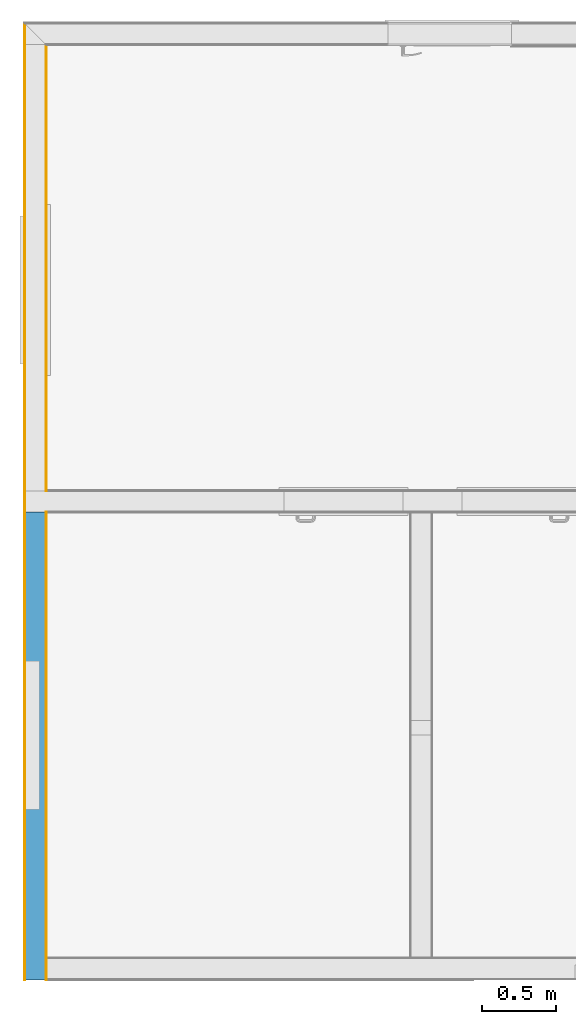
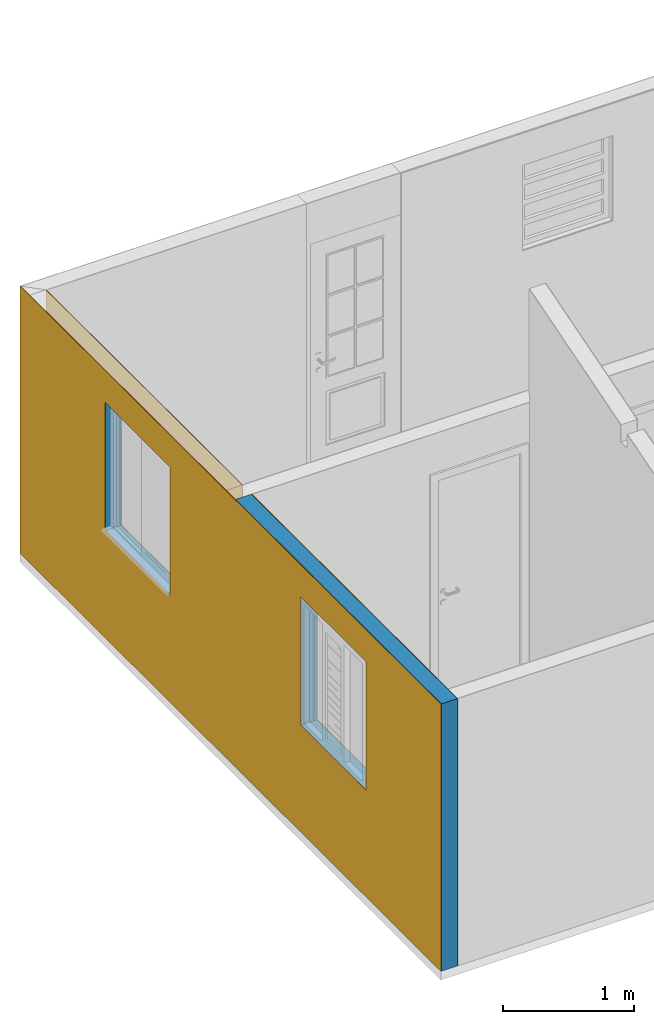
# One storey, part 3 of 11: 2 coverings, 1 building element part, 2 openings, 1 element without a shape of its own.
"""IFC2X3 building model written with IfcOpenShell, lengths in millimetres."""

from ifc_helpers import new_model, entity, si_unit, converted_unit, derived_unit, money_unit, direction, frame, origin_with_axes, origin_2d_with_axis, place, context, subcontext, project, spatial, polyline, rectangle, outline, extrude, boolean, faceted_brep, material, type_object, element, aggregate, save


model = new_model("IFC2X3")

# Units and contexts
model_context = context("Model", 3, precision=0.01, world=origin_with_axes(), true_north=direction((0.0, 1.0)))
body_context = subcontext(model_context, "Body", "Model", "MODEL_VIEW")
ifc_project = project(units=[si_unit("LENGTHUNIT", "METRE", prefix="MILLI"), si_unit("AREAUNIT", "SQUARE_METRE"), si_unit("VOLUMEUNIT", "CUBIC_METRE"), converted_unit("PLANEANGLEUNIT", "DEGREE", entity("IfcPlaneAngleMeasure", 0.0174532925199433), si_unit("PLANEANGLEUNIT", "RADIAN"), dimensions=[0, 0, 0, 0, 0, 0, 0]), money_unit("USD"), converted_unit("TIMEUNIT", "Year", entity("IfcTimeMeasure", 31557600.0), si_unit("TIMEUNIT", "SECOND"), dimensions=[0, 0, 1, 0, 0, 0, 0]), si_unit("MASSUNIT", "GRAM", prefix="KILO"), si_unit("THERMODYNAMICTEMPERATUREUNIT", "DEGREE_CELSIUS"), si_unit("LUMINOUSINTENSITYUNIT", "LUMEN"), si_unit("ENERGYUNIT", "JOULE", prefix="MEGA"), derived_unit("THERMALCONDUCTANCEUNIT", [(si_unit("POWERUNIT", "WATT"), 1), (si_unit("LENGTHUNIT", "METRE"), -1), (si_unit("THERMODYNAMICTEMPERATUREUNIT", "KELVIN"), -1)]), derived_unit("SPECIFICHEATCAPACITYUNIT", [(si_unit("ENERGYUNIT", "JOULE"), 1), (si_unit("MASSUNIT", "GRAM", prefix="KILO"), -1), (si_unit("THERMODYNAMICTEMPERATUREUNIT", "KELVIN"), -1)]), derived_unit("MASSDENSITYUNIT", [(si_unit("MASSUNIT", "GRAM", prefix="KILO"), 1), (si_unit("VOLUMEUNIT", "CUBIC_METRE"), -1)])], contexts=[model_context])

# Site, building, storey
site_placement = place(None, origin_with_axes())
site = spatial("IfcSite", under=ifc_project, at=site_placement, Name="Local", CompositionType="ELEMENT")
building_placement = place(site_placement, origin_with_axes())
building = spatial("IfcBuilding", under=site, at=building_placement, Name="Construção", CompositionType="ELEMENT")
storey_placement = place(building_placement, origin_with_axes())
storey = spatial("IfcBuildingStorey", under=building, at=storey_placement, Name="Pavimento Térreo", CompositionType="ELEMENT", Elevation=0.0)

# Wall, openings, coverings, building element part
wall_type = type_object("IfcWallType", Name="Alvenaria 140, Rebocada 2 Faces 150", PredefinedType="NOTDEFINED")
wall_placement = place(storey_placement, frame((0.0, 6450.000000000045, 0.0), z_axis=(0.0, 0.0, 1.0), x_axis=(0.0, -1.0, 0.0)))
wall = element("IfcWall", 1, at=wall_placement, inside=storey, type_object=wall_type, Name="Parede-01")
opening_1_placement = place(wall_placement, frame((4800.000000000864, 0.0, 1000.0), z_axis=(0.0, 0.0, 1.0), x_axis=(1.0, 0.0, 0.0)))
element("IfcOpeningElement", 2, at=opening_1_placement, cuts=wall, Name="J03", context=body_context, shape_type="SweptSolid", body=[
    extrude(rectangle(XDim=1000.0, YDim=1200.0, at=origin_2d_with_axis()), frame((0.0, 150.0000000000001, 600.0000000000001), z_axis=(0.0, 1.0, 0.0), x_axis=(1.0, 0.0, 0.0)), (0.0, 0.0, -1.0), 450.0000000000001),
])
opening_2_placement = place(wall_placement, frame((1800.000000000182, 0.0, 1000.0), z_axis=(0.0, 0.0, 1.0), x_axis=(1.0, 0.0, 0.0)))
element("IfcOpeningElement", 3, at=opening_2_placement, cuts=wall, Name="J02", context=body_context, shape_type="SweptSolid", body=[
    extrude(rectangle(XDim=1000.0, YDim=1200.0, at=origin_2d_with_axis()), frame((0.0, 49.99999999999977, 600.0000000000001), z_axis=(0.0, -1.0, 0.0), x_axis=(-1.0, 0.0, 0.0)), (0.0, 0.0, -1.0), 250.0000000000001),
    extrude(rectangle(XDim=1000.0, YDim=1200.0, at=origin_2d_with_axis()), frame((0.0, 49.99999999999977, 600.0000000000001), z_axis=(0.0, 1.0, 0.0), x_axis=(-1.0, 0.0, 0.0)), (0.0, 0.0, -1.0), 200.0),
    extrude(rectangle(XDim=1150.0, YDim=1350.0, at=origin_2d_with_axis()), frame((0.0, 149.9999999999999, 599.9999999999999), z_axis=(0.0, -1.0, 0.0), x_axis=(-1.0, 0.0, 0.0)), (0.0, 0.0, -1.0), 200.0),
])
ifc_material_1 = material(Name="Reboco DEF")
covering_1_placement = place(wall_placement, origin_with_axes())
covering_1 = element("IfcCovering", 4, at=covering_1_placement, material=ifc_material_1, Name="Reboco DEF", PredefinedType="CLADDING", context=body_context, shape_type="CSG", body=[
    boolean("DIFFERENCE", boolean("DIFFERENCE", boolean("DIFFERENCE", extrude(outline(polyline([(0.0, 0.0), (6450.000000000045, 0.0), (6450.000000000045, 5.000000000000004), (0.0, 5.000000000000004), (0.0, 0.0)])), origin_with_axes(), (0.0, 0.0, 1.0), 2500.0), faceted_brep([(3295.000000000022, 144.9999999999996, 2300.0), (4.999999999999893, 144.9999999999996, 2300.0), (4.999999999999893, 144.9999999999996, 0.0), (0.0, 145.0, 0.0), (0.0, 145.0, 2500.0), (3295.000000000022, 144.9999999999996, 2500.0), (3295.000000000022, 4.999999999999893, 2300.0), (4.999999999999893, 4.999999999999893, 2300.0), (5.000000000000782, 4.999999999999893, 0.0), (0.0, 5.000000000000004, 0.0), (0.0, 5.000000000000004, 2500.0), (3295.000000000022, 4.999999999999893, 2500.0)], [[[0, 1, 2, 3, 4, 5]], [[1, 0, 6, 7]], [[2, 1, 7, 8]], [[2, 8, 9, 3]], [[4, 3, 9, 10]], [[11, 5, 4, 10]], [[5, 11, 6, 0]], [[6, 11, 10, 9, 8, 7]]])), faceted_brep([(3155.000000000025, 150.0000000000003, 2500.0), (3155.000000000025, 144.9999999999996, 2500.0), (3295.000000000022, 144.9999999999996, 2500.0), (3295.000000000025, 150.0000000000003, 2500.0), (3155.000000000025, 149.9999999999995, 0.0), (3155.000000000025, 144.9999999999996, 0.0), (3295.000000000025, 144.9999999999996, 0.0), (3295.000000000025, 149.9999999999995, 0.0)], [[[0, 1, 2, 3]], [[1, 0, 4, 5]], [[1, 5, 6, 2]], [[7, 3, 2, 6]], [[4, 0, 3, 7]], [[5, 4, 7, 6]]])), faceted_brep([(144.9999999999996, 144.9999999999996, 2500.0), (144.9999999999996, 150.0000000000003, 2500.0), (0.0, 150.0, 2500.0), (0.0, 145.0, 2500.0), (144.9999999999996, 150.0000000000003, 0.0), (144.9999999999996, 144.9999999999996, 0.0), (0.0, 150.0, 0.0), (0.0, 145.0, 0.0)], [[[0, 1, 2, 3]], [[4, 1, 0, 5]], [[1, 4, 6, 2]], [[2, 6, 7, 3]], [[5, 0, 3, 7]], [[4, 5, 7, 6]]])),
])
covering_2_placement = place(wall_placement, origin_with_axes())
covering_2 = element("IfcCovering", 5, at=covering_2_placement, material=ifc_material_1, Name="Reboco DEF", PredefinedType="CLADDING", context=body_context, shape_type="CSG", body=[
    boolean("DIFFERENCE", boolean("DIFFERENCE", boolean("DIFFERENCE", extrude(outline(polyline([(0.0, 145.0), (6450.000000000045, 145.0), (6450.000000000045, 150.0), (0.0, 150.0), (0.0, 145.0)])), origin_with_axes(), (0.0, 0.0, 1.0), 2500.0), faceted_brep([(3295.000000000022, 144.9999999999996, 2300.0), (4.999999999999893, 144.9999999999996, 2300.0), (4.999999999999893, 144.9999999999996, 0.0), (0.0, 145.0, 0.0), (0.0, 145.0, 2500.0), (3295.000000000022, 144.9999999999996, 2500.0), (3295.000000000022, 4.999999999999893, 2300.0), (4.999999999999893, 4.999999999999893, 2300.0), (5.000000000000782, 4.999999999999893, 0.0), (0.0, 5.000000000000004, 0.0), (0.0, 5.000000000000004, 2500.0), (3295.000000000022, 4.999999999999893, 2500.0)], [[[0, 1, 2, 3, 4, 5]], [[1, 0, 6, 7]], [[2, 1, 7, 8]], [[2, 8, 9, 3]], [[4, 3, 9, 10]], [[11, 5, 4, 10]], [[5, 11, 6, 0]], [[6, 11, 10, 9, 8, 7]]])), faceted_brep([(3155.000000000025, 150.0000000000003, 2500.0), (3155.000000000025, 144.9999999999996, 2500.0), (3295.000000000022, 144.9999999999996, 2500.0), (3295.000000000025, 150.0000000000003, 2500.0), (3155.000000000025, 149.9999999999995, 0.0), (3155.000000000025, 144.9999999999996, 0.0), (3295.000000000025, 144.9999999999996, 0.0), (3295.000000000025, 149.9999999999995, 0.0)], [[[0, 1, 2, 3]], [[1, 0, 4, 5]], [[1, 5, 6, 2]], [[7, 3, 2, 6]], [[4, 0, 3, 7]], [[5, 4, 7, 6]]])), faceted_brep([(144.9999999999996, 144.9999999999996, 2500.0), (144.9999999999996, 150.0000000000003, 2500.0), (0.0, 150.0, 2500.0), (0.0, 145.0, 2500.0), (144.9999999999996, 150.0000000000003, 0.0), (144.9999999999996, 144.9999999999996, 0.0), (0.0, 150.0, 0.0), (0.0, 145.0, 0.0)], [[[0, 1, 2, 3]], [[4, 1, 0, 5]], [[1, 4, 6, 2]], [[2, 6, 7, 3]], [[5, 0, 3, 7]], [[4, 5, 7, 6]]])),
])
ifc_material_2 = material(Name="Bloco de Concreto - Estrutural DEF")
building_element_part_placement = place(wall_placement, origin_with_axes())
building_element_part = element("IfcBuildingElementPart", 6, at=building_element_part_placement, material=ifc_material_2, Name="Bloco de Concreto - Estrutural DEF", context=body_context, shape_type="CSG", body=[
    boolean("DIFFERENCE", boolean("DIFFERENCE", boolean("DIFFERENCE", extrude(outline(polyline([(0.0, 4.999999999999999), (6450.000000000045, 4.999999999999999), (6450.000000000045, 145.0), (0.0, 145.0), (0.0, 4.999999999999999)])), origin_with_axes(), (0.0, 0.0, 1.0), 2500.0), faceted_brep([(3295.000000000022, 144.9999999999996, 2300.0), (4.999999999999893, 144.9999999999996, 2300.0), (4.999999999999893, 144.9999999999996, 0.0), (0.0, 145.0, 0.0), (0.0, 145.0, 2500.0), (3295.000000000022, 144.9999999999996, 2500.0), (3295.000000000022, 4.999999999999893, 2300.0), (4.999999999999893, 4.999999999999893, 2300.0), (5.000000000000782, 4.999999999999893, 0.0), (0.0, 5.000000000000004, 0.0), (0.0, 5.000000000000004, 2500.0), (3295.000000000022, 4.999999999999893, 2500.0)], [[[0, 1, 2, 3, 4, 5]], [[1, 0, 6, 7]], [[2, 1, 7, 8]], [[2, 8, 9, 3]], [[4, 3, 9, 10]], [[11, 5, 4, 10]], [[5, 11, 6, 0]], [[6, 11, 10, 9, 8, 7]]])), faceted_brep([(3155.000000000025, 150.0000000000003, 2500.0), (3155.000000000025, 144.9999999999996, 2500.0), (3295.000000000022, 144.9999999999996, 2500.0), (3295.000000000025, 150.0000000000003, 2500.0), (3155.000000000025, 149.9999999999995, 0.0), (3155.000000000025, 144.9999999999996, 0.0), (3295.000000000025, 144.9999999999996, 0.0), (3295.000000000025, 149.9999999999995, 0.0)], [[[0, 1, 2, 3]], [[1, 0, 4, 5]], [[1, 5, 6, 2]], [[7, 3, 2, 6]], [[4, 0, 3, 7]], [[5, 4, 7, 6]]])), faceted_brep([(144.9999999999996, 144.9999999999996, 2500.0), (144.9999999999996, 150.0000000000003, 2500.0), (0.0, 150.0, 2500.0), (0.0, 145.0, 2500.0), (144.9999999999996, 150.0000000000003, 0.0), (144.9999999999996, 144.9999999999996, 0.0), (0.0, 150.0, 0.0), (0.0, 145.0, 0.0)], [[[0, 1, 2, 3]], [[4, 1, 0, 5]], [[1, 4, 6, 2]], [[2, 6, 7, 3]], [[5, 0, 3, 7]], [[4, 5, 7, 6]]])),
])
aggregate(wall, [building_element_part, covering_1, covering_2])

save(model, "model.ifc")
